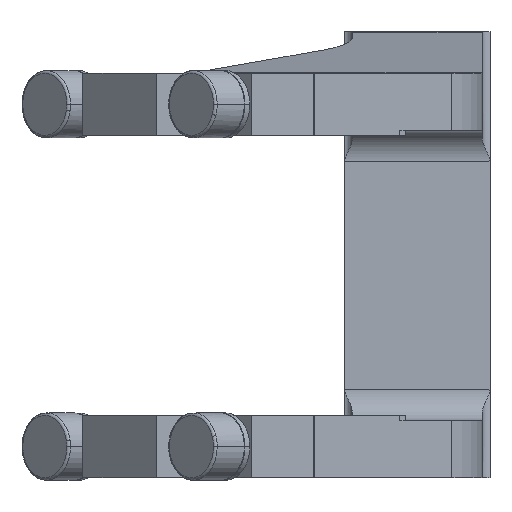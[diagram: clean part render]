
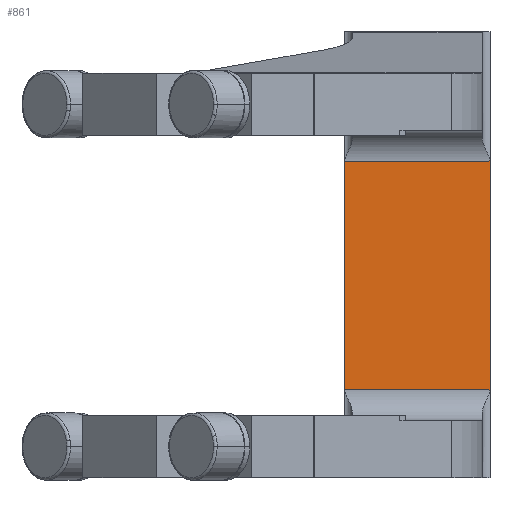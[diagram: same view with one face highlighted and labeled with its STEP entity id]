
A CAD part, front view. The second image highlights one B-rep face of the part: STEP entity #861.
In plain terms, the highlighted planar face has unit normal (0, -1, 0).
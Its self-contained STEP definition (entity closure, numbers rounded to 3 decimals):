
#460=CARTESIAN_POINT('Vertex',(25.,80.,22.)) ;
#463=CARTESIAN_POINT('Line Origine',(5.5,80.,22.)) ;
#467=CARTESIAN_POINT('Vertex',(53.,80.,22.)) ;
#831=CARTESIAN_POINT('Axis2P3D Location',(53.,80.,22.)) ;
#836=CARTESIAN_POINT('Line Origine',(25.,80.,0.)) ;
#840=CARTESIAN_POINT('Vertex',(25.,80.,-22.)) ;
#843=CARTESIAN_POINT('Line Origine',(39.,80.,-22.)) ;
#847=CARTESIAN_POINT('Vertex',(53.,80.,-22.)) ;
#850=CARTESIAN_POINT('Line Origine',(53.,80.,0.)) ;
#464=DIRECTION('Vector Direction',(1.,0.,0.)) ;
#832=DIRECTION('Axis2P3D Direction',(0.,1.,0.)) ;
#833=DIRECTION('Axis2P3D XDirection',(0.,0.,-1.)) ;
#837=DIRECTION('Vector Direction',(0.,0.,-1.)) ;
#844=DIRECTION('Vector Direction',(-1.,0.,0.)) ;
#851=DIRECTION('Vector Direction',(0.,0.,-1.)) ;
#834=AXIS2_PLACEMENT_3D('Plane Axis2P3D',#831,#832,#833) ;
#856=ORIENTED_EDGE('',*,*,#842,.F.) ;
#857=ORIENTED_EDGE('',*,*,#849,.F.) ;
#858=ORIENTED_EDGE('',*,*,#854,.T.) ;
#859=ORIENTED_EDGE('',*,*,#469,.T.) ;
#465=VECTOR('Line Direction',#464,1.) ;
#838=VECTOR('Line Direction',#837,1.) ;
#845=VECTOR('Line Direction',#844,1.) ;
#852=VECTOR('Line Direction',#851,1.) ;
#861=ADVANCED_FACE('Brep With Voids',(#860),#835,.F.) ;
#469=EDGE_CURVE('',#468,#461,#466,.F.) ;
#842=EDGE_CURVE('',#841,#461,#839,.F.) ;
#849=EDGE_CURVE('',#848,#841,#846,.T.) ;
#854=EDGE_CURVE('',#848,#468,#853,.F.) ;
#855=EDGE_LOOP('',(#856,#857,#858,#859)) ;
#860=FACE_OUTER_BOUND('',#855,.T.) ;
#466=LINE('Line',#463,#465) ;
#839=LINE('Line',#836,#838) ;
#846=LINE('Line',#843,#845) ;
#853=LINE('Line',#850,#852) ;
#835=PLANE('Plane',#834) ;
#461=VERTEX_POINT('',#460) ;
#468=VERTEX_POINT('',#467) ;
#841=VERTEX_POINT('',#840) ;
#848=VERTEX_POINT('',#847) ;
